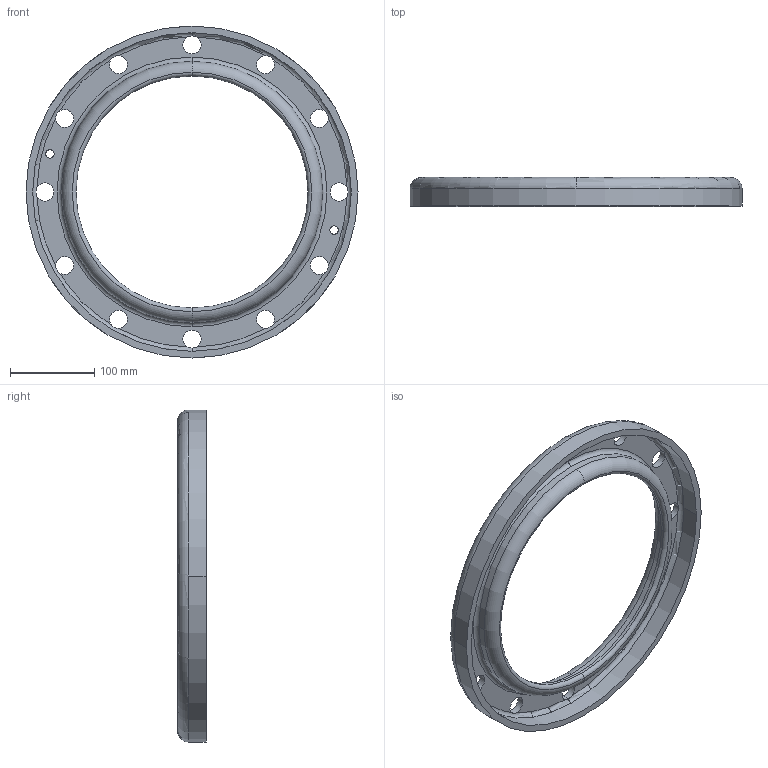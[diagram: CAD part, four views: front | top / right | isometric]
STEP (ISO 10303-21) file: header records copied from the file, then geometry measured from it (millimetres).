
FILE_DESCRIPTION(('STEP AP214'),'1');
FILE_NAME('Losflansch-DN250.stp','2023-07-13T07:25:51',(' '),(' '),'Spatial InterOp 3D',' ',' ');
FILE_SCHEMA(('automotive_design'));
Length unit declared in the file: millimetre
Products named in the file (2): 3D-Arbeitsebene
Assembly tree (1 placements, depth 2):
  3D-Arbeitsebene
    3D-Arbeitsebene
Bounding box: 395 x 34.5 x 395 mm (x, y, z)
Volume: 819660 mm3; surface area: 227993.4 mm2
Topology: 1 solids, 1 shells, 72 faces, 274 edges, 182 vertices
Faces by surface type: cylinder 54, torus 14, plane 4
Entity records: 6033 total; most frequent: CARTESIAN_POINT 3018, ORIENTED_EDGE 548, DIRECTION 522, EDGE_CURVE 274, AXIS2_PLACEMENT_3D 238, VERTEX_POINT 182, CIRCLE 164, EDGE_LOOP 80
